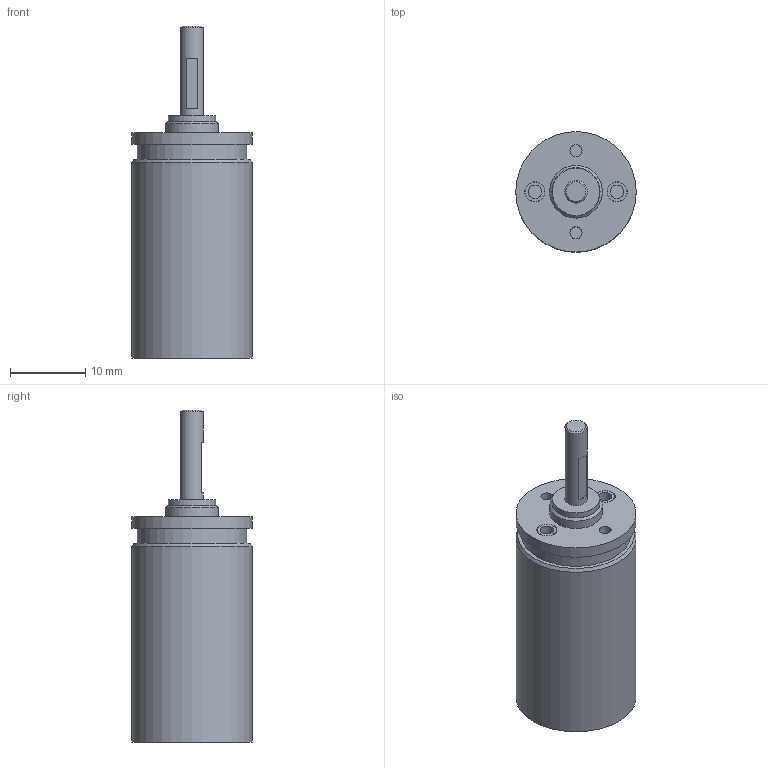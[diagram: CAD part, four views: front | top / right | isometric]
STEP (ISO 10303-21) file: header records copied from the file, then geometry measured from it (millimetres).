
FILE_DESCRIPTION(/* description */ (''),/* implementation_level */ '2;1');
FILE_NAME(/* name */ '15-5_3.stp',/* time_stamp */ '2016-08-24T14:12:03+02:00',/* author */ ('DR. FRITZ FAULHABER GmbH & Co. KG'),/* organization */ ('DR. FRITZ FAULHABER GmbH & Co. KG'),/* preprocessor_version */ 'ST-DEVELOPER v16',/* originating_system */ 'SIEMENS PLM Software NX 10.0',/* authorisation */ '');
FILE_SCHEMA (('AUTOMOTIVE_DESIGN { 1 0 10303 214 3 1 1 1 }'));
Length unit declared in the file: millimetre
Products named in the file (1): H00000509_A
Bounding box: 16 x 16 x 44.1 mm (x, y, z)
Volume: 3736 mm3; surface area: 2837 mm2
Topology: 1 solids, 1 shells, 41 faces, 64 edges, 42 vertices
Faces by surface type: plane 21, cylinder 17, cone 3
Full cylindrical faces by diameter (mm): 1.6 x2, 1.8 x2, 2.48 x1, 2.584 x2, 2.684 x2, 3 x1, 6 x1, 6.3 x1, 7 x1, 14.5 x1, 15 x1, 16 x2
Entity records: 856 total; most frequent: DIRECTION 166, CARTESIAN_POINT 126, ORIENTED_EDGE 86, AXIS2_PLACEMENT_3D 81, EDGE_LOOP 78, FACE_BOUND 69, EDGE_CURVE 43, ADVANCED_FACE 41
